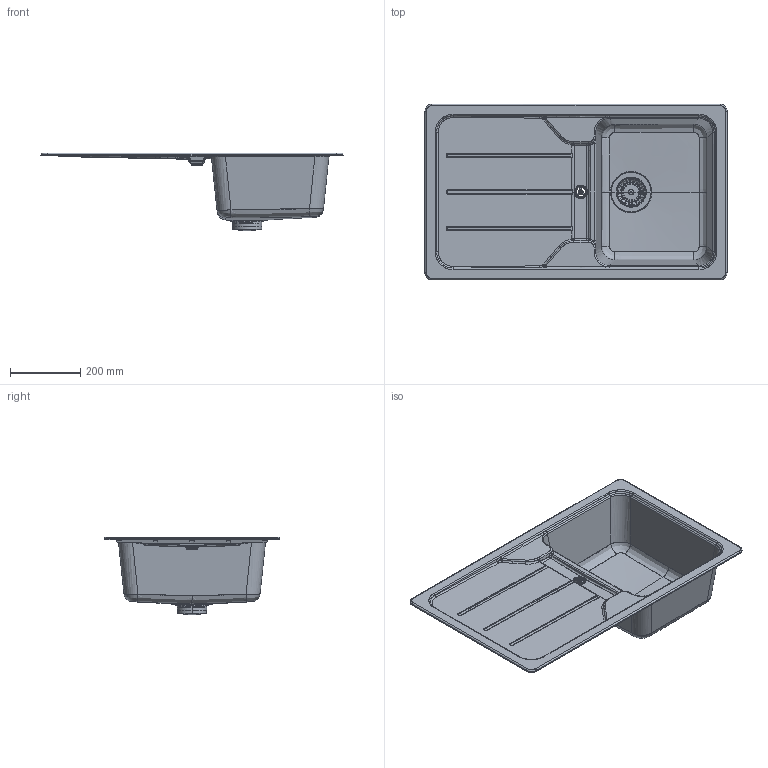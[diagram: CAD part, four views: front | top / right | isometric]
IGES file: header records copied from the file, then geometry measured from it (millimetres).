
Global section: file name: /Volumes/__KUNDEN/____01_SCHOCK/____projekte_schock/__RENDERINGS/__SPUELEN/02_3D Daten/02_PERSPEKTIVEN/Rhino/_SPU; native system: Rhinoceros ( Aug 27 2014 ); preprocessor: Trout Lake IGES 012 Aug 27 2014; date: 141103.153020; units: millimetre
Bounding box: 860 x 500 x 221.43 mm (x, y, z)
Surface area: 708483.9 mm2 (no closed solid volume)
Topology: 0 solids, 0 shells, 493 faces, 43619 edges, 43609 vertices
Faces by surface type: bspline 493
